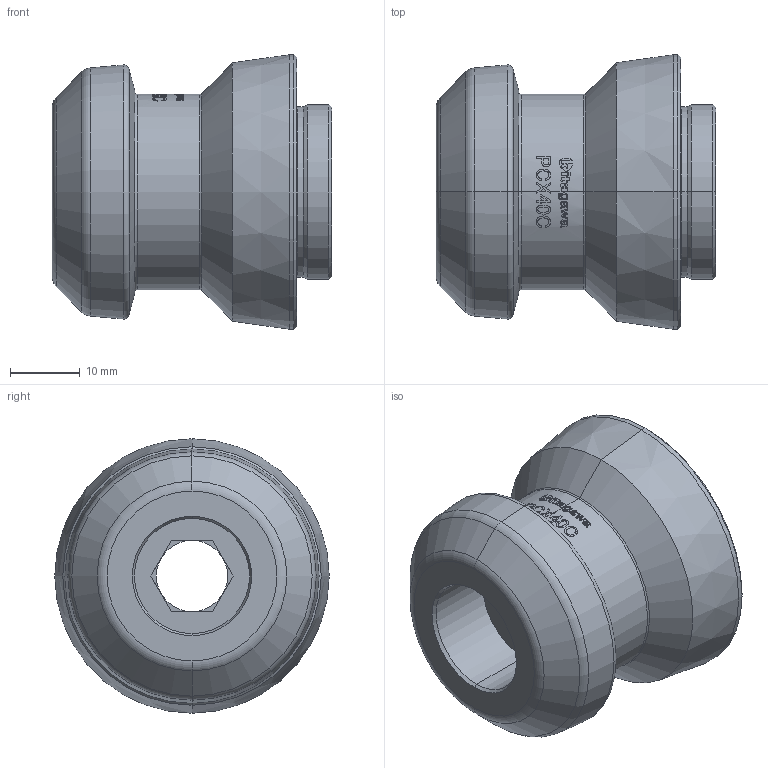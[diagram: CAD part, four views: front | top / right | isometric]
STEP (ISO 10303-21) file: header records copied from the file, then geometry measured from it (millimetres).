
FILE_DESCRIPTION (( 'STEP AP203' ), '1' );
FILE_NAME ('61P293308.STEP', '2024-04-26T01:32:50', ( '' ), ( '' ), 'SwSTEP 2.0', 'SolidWorks 2022', '' );
FILE_SCHEMA (( 'CONFIG_CONTROL_DESIGN' ));
Length unit declared in the file: millimetre
Products named in the file (1): 61P293308
Bounding box: 40 x 39.3 x 39.3 mm (x, y, z)
Volume: 28366.2 mm3; surface area: 7766.3 mm2
Topology: 1 solids, 1 shells, 87 faces, 868 edges, 807 vertices
Faces by surface type: cylinder 36, cone 22, plane 17, torus 12
Entity records: 8955 total; most frequent: CARTESIAN_POINT 3847, ORIENTED_EDGE 1736, EDGE_CURVE 868, VERTEX_POINT 807, DIRECTION 568, AXIS2_PLACEMENT_3D 228, CIRCLE 140, EDGE_LOOP 113
